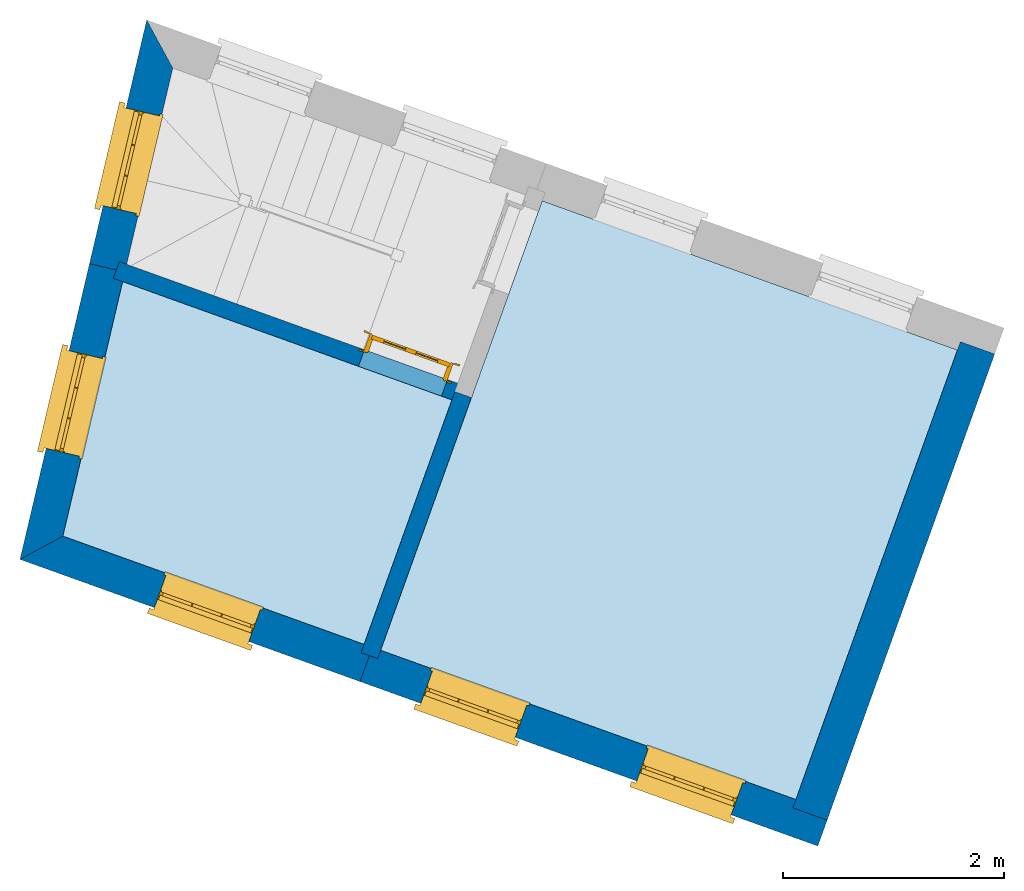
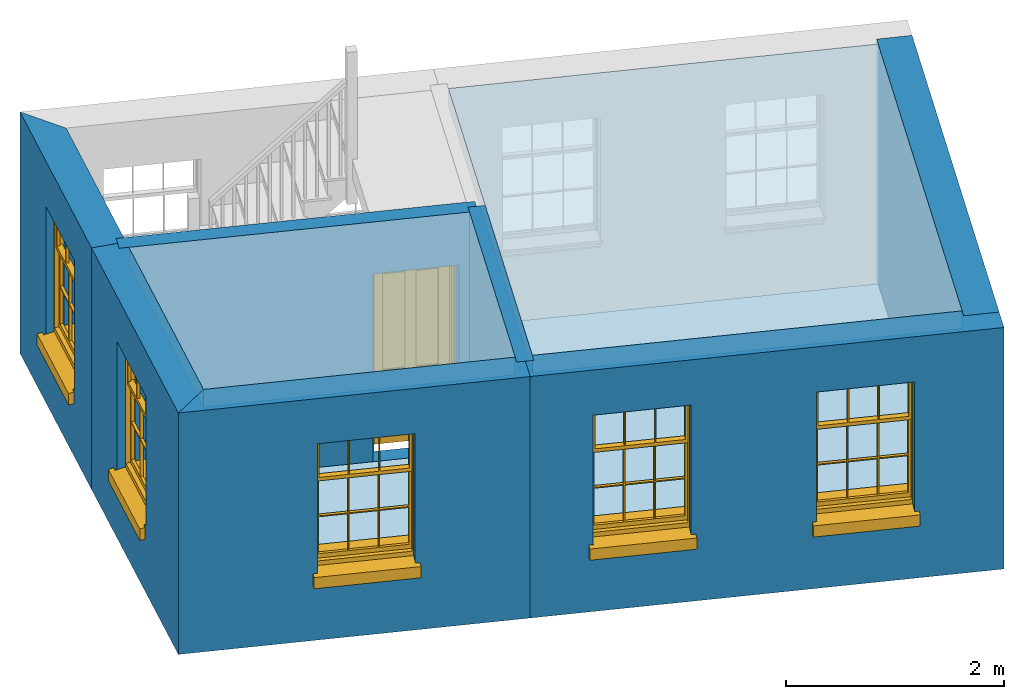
# One storey, part 1 of 3: 7 walls, 5 windows, 4 slabs, 1 door, 6 openings.
"""IFC4 building model written with IfcOpenShell, lengths in metres."""

from ifc_helpers import new_model, si_unit, frame, origin, origin_with_axes, place, context, subcontext, project, spatial, polyline, outline, extrude, faceted_brep, source, transform, mapped, material, layer, layer_set, layer_usage, type_object, type_shapes, element, fill, save


model = new_model("IFC4")

# Units and contexts
model_context = context("Model", 3, world=origin_with_axes())
body_context = subcontext(model_context, "Body", "Model", "MODEL_VIEW")
ifc_project = project(units=[si_unit("PLANEANGLEUNIT", "RADIAN"), si_unit("MASSUNIT", "GRAM", prefix="KILO"), si_unit("FORCEUNIT", "NEWTON", prefix="KILO"), si_unit("LENGTHUNIT", "METRE"), si_unit("AREAUNIT", "SQUARE_METRE"), si_unit("VOLUMEUNIT", "CUBIC_METRE")], contexts=[model_context, model_context])

# Sites, building, storey
site_1_placement = place(None, origin_with_axes())
site_1 = spatial("IfcSite", under=ifc_project, at=site_1_placement, Name="Tamar")
site_2_placement = place(site_1_placement, origin_with_axes())
site_2 = spatial("IfcSite", under=site_1, at=site_2_placement, Name="Site plot-22", CompositionType="ELEMENT")
building_placement = place(None, origin_with_axes())
building = spatial("IfcBuilding", under=site_2, at=building_placement, Name="Building plot-22", CompositionType="ELEMENT")
storey_placement = place(None, frame((0.0, 0.0, 27.8), z_axis=(0.0, 0.0, 1.0), x_axis=(1.0, 0.0, 0.0)))
storey = spatial("IfcBuildingStorey", under=building, at=storey_placement, Name="plot-22 1", CompositionType="ELEMENT", Elevation=27.8)

# Slabs
slab_1_placement = place(storey_placement, frame((250.675062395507, 274.189017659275, 2.5)))
element("IfcSlab", 1, at=slab_1_placement, inside=storey, Name="My Slab", ObjectType="Slab", PredefinedType="FLOOR", context=body_context, shape_type="SweptSolid", body=[
    extrude(outline(polyline([(0.0, 0.0), (-0.541850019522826, -2.30695376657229), (2.1880883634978, -3.28791190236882), (2.9842208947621, -1.07233034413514), (0.0, 0.0)])), origin_with_axes(), (0.0, 0.0, 1.0), 0.2),
])
slab_2_placement = place(storey_placement, frame((250.675062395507, 274.189017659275, 0.0)))
element("IfcSlab", 2, at=slab_2_placement, inside=storey, Name="My Slab", ObjectType="Slab", PredefinedType="FLOOR", context=body_context, shape_type="SweptSolid", body=[
    extrude(outline(polyline([(0.0, 0.0), (-0.541850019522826, -2.30695376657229), (2.1880883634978, -3.28791190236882), (2.9842208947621, -1.07233034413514), (0.0, 0.0)])), origin_with_axes(), (0.0, 0.0, 1.0), 0.02),
])
slab_3_placement = place(storey_placement, frame((253.013724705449, 270.846999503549, 2.5)))
element("IfcSlab", 3, at=slab_3_placement, inside=storey, Name="My Slab", ObjectType="Slab", PredefinedType="FLOOR", context=body_context, shape_type="SweptSolid", body=[
    extrude(outline(polyline([(0.0, 0.0), (3.76400951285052, -1.35253446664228), (5.22814431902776, 2.72205104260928), (1.4641348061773, 4.07458550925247), (0.0, 0.0)])), origin_with_axes(), (0.0, 0.0, 1.0), 0.2),
])
slab_4_placement = place(storey_placement, frame((253.013724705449, 270.846999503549, 0.0)))
element("IfcSlab", 4, at=slab_4_placement, inside=storey, Name="My Slab", ObjectType="Slab", PredefinedType="FLOOR", context=body_context, shape_type="SweptSolid", body=[
    extrude(outline(polyline([(0.0, 0.0), (3.76400951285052, -1.35253446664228), (5.22814431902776, 2.72205104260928), (1.4641348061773, 4.07458550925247), (0.0, 0.0)])), origin_with_axes(), (0.0, 0.0, 1.0), 0.02),
])

# Wall, opening, window
ifc_material_1 = material(Name="Masonry")
ifc_layer_1 = layer(ifc_material_1, 0.33, ventilated=False)
ifc_layer_set_1 = layer_set([ifc_layer_1], Name="exterior_0.08_0.25")
ifc_layer_usage_1 = layer_usage(ifc_layer_set_1, "AXIS2", "POSITIVE", -0.25)
wall_type_1 = type_object("IfcWallType", Name="exterior_0.08_0.25", PredefinedType="SOLIDWALL", material=ifc_layer_set_1)
wall_1_placement = place(storey_placement, frame((251.072337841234, 276.230310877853, 0.0), z_axis=(0.0, 0.0, 1.0), x_axis=(-0.228654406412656, -0.973507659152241, 0.0)))
wall_1 = element("IfcWall", 5, at=wall_1_placement, inside=storey, type_object=wall_type_1, material=ifc_layer_usage_1, Name="exterior", context=body_context, shape_type="SweptSolid", body=[
    extrude(outline(polyline([(0.0897067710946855, 0.0800000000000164), (-0.280333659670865, -0.250000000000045), (1.98834659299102, -0.250000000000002), (1.98834659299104, 0.0799999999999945), (0.0897067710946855, 0.0800000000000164)])), origin_with_axes(), (0.0, 0.0, 1.0), 2.7),
])
opening_1_placement = place(wall_1_placement, frame((0.539173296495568, 0.0, 0.75)))
opening_1 = element("IfcOpeningElement", 6, at=opening_1_placement, cuts=wall_1, Name="My Opening", ObjectType="Opening", context=body_context, shape_type="SweptSolid", body=[
    extrude(outline(polyline([(0.0, -0.269999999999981), (0.909999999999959, -0.270000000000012), (0.909999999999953, 1.09999999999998), (-5.77315972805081e-15, 1.10000000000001), (0.0, -0.269999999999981)])), origin_with_axes(), (0.0, 0.0, 1.0), 1.445),
])
window_type = type_object("IfcWindowType", Name="sash_shorter", PartitioningType="DOUBLE_PANEL_HORIZONTAL", PredefinedType="NOTDEFINED")
shared_shape_1 = source(origin(), body_context, "Body", "Brep", [
    faceted_brep([(0.876875, 0.145, 0.999097), (0.876875, 0.145, 1.411875), (0.9, 0.145, 1.435), (0.033125, 0.145, 1.411875), (0.033125, 0.145, 0.999097), (0.01, 0.145, 1.435), (0.033125, 0.115, 1.411875), (0.01, 0.115, 1.435), (0.033125, 0.115, 0.999097), (0.876875, 0.115, 1.411875), (0.876875, 0.115, 0.999097), (0.9, 0.115, 1.435), (0.033125, 0.145, 0.960972), (0.01, 0.145, 0.960972), (0.033125, 0.145, 0.548195), (0.876875, 0.145, 0.960972), (0.876875, 0.145, 0.548195), (0.9, 0.145, 0.960972), (0.876875, 0.145, 0.538195), (0.876875, 0.145, 0.125417), (0.9, 0.145, 0.077167), (0.033125, 0.145, 0.125417), (0.033125, 0.145, 0.538195), (0.01, 0.145, 0.077167), (0.9, 0.115, 0.960972), (0.01, 0.115, 0.960972), (-0.0425, 0.0, 0.01), (-0.0425, -0.05, 0.001667), (0.0, 0.0, 0.01), (0.9525, 0.0, 0.01), (0.91, 0.0, 0.01), (0.9525, -0.05, 0.001667), (-0.02, 0.33, 0.077167), (0.0, 0.33, 0.077167), (-0.02, 0.36, 0.077167), (0.0, 0.19, 0.077167), (0.01, 0.19, 0.077167), (0.91, 0.19, 0.077167), (0.91, 0.33, 0.077167), (0.9, 0.19, 0.077167), (0.93, 0.33, 0.077167), (0.93, 0.36, 0.077167), (0.01, 0.145, 0.999097), (0.01, 0.175, 0.999097), (0.9, 0.145, 0.999097), (0.9, 0.175, 0.999097), (0.876875, 0.175, 0.125417), (0.876875, 0.175, 0.538195), (0.9, 0.175, 0.077167), (0.876875, 0.175, 0.548195), (0.876875, 0.175, 0.960972), (0.033125, 0.175, 0.125417), (0.01, 0.175, 0.077167), (0.033125, 0.175, 0.538195), (0.033125, 0.175, 0.960972), (0.033125, 0.175, 0.548195), (-0.02, 0.33, 0.052167), (-0.02, 0.36, 0.052167), (0.93, 0.36, 0.052167), (0.93, 0.33, 0.052167), (0.91, 0.33, 0.052167), (0.0, 0.33, 0.052167), (0.91, 0.1, 0.026667), (0.0, 0.1, 0.026667), (-0.0425, -0.05, -0.123333), (0.9525, -0.05, -0.123333), (-0.0425, 0.0, -0.123333), (0.9525, 0.0, -0.123333), (0.01, 0.19, 1.435), (0.9, 0.19, 1.435), (0.0, 0.19, 1.445), (0.91, 0.19, 1.445), (0.01, 0.1, 0.077167), (0.9, 0.1, 0.077167), (0.592292, 0.145, 0.125417), (0.592292, 0.175, 0.125417), (0.317708, 0.175, 0.125417), (0.317708, 0.145, 0.125417), (0.592292, 0.145, 0.548195), (0.317708, 0.145, 0.548195), (0.317708, 0.145, 0.538195), (0.592292, 0.145, 0.538195), (0.592292, 0.175, 0.548195), (0.317708, 0.175, 0.548195), (0.602292, 0.175, 0.548195), (0.602292, 0.145, 0.548195), (0.317708, 0.175, 0.538195), (0.307708, 0.175, 0.125417), (0.307708, 0.175, 0.538195), (0.602292, 0.175, 0.538195), (0.602292, 0.175, 0.125417), (0.592292, 0.175, 0.538195), (0.307708, 0.175, 0.548195), (0.317708, 0.175, 0.960972), (0.307708, 0.175, 0.960972), (0.602292, 0.175, 0.960972), (0.592292, 0.175, 0.960972), (0.307708, 0.145, 0.538195), (0.307708, 0.145, 0.125417), (0.307708, 0.145, 0.548195), (0.307708, 0.145, 0.960972), (0.592292, 0.145, 0.960972), (0.317708, 0.145, 0.960972), (0.602292, 0.145, 0.960972), (0.602292, 0.145, 0.538195), (0.602292, 0.145, 0.125417), (0.317708, 0.115, 1.411875), (0.307708, 0.115, 1.411875), (0.307708, 0.115, 0.999097), (0.317708, 0.115, 0.999097), (0.602292, 0.115, 1.411875), (0.592292, 0.115, 1.411875), (0.592292, 0.115, 0.999097), (0.602292, 0.115, 0.999097), (0.317708, 0.145, 0.999097), (0.307708, 0.145, 0.999097), (0.307708, 0.145, 1.411875), (0.317708, 0.145, 1.411875), (0.602292, 0.145, 0.999097), (0.592292, 0.145, 0.999097), (0.592292, 0.145, 1.411875), (0.602292, 0.145, 1.411875), (0.91, 0.1, 1.445), (0.9, 0.1, 1.435), (0.01, 0.1, 1.435), (0.0, 0.1, 1.445), (0.91, 0.0, 0.0), (0.0, 0.0, 0.0), (0.91, 0.33, 0.0), (0.0, 0.33, 0.0)], [[[0, 1, 2]], [[3, 4, 5]], [[6, 7, 8]], [[9, 10, 11]], [[12, 13, 14]], [[15, 16, 17]], [[18, 19, 20]], [[21, 22, 23]], [[24, 15, 17]], [[13, 12, 25]], [[26, 27, 28]], [[29, 30, 31]], [[32, 33, 34]], [[35, 36, 33]], [[37, 38, 39]], [[40, 41, 38]], [[42, 4, 43]], [[44, 45, 0]], [[46, 47, 48]], [[49, 50, 45]], [[51, 52, 53]], [[54, 55, 43]], [[38, 33, 36, 39]], [[41, 34, 33, 38]], [[56, 32, 34, 57]], [[57, 34, 41, 58]], [[58, 41, 40, 59]], [[57, 58, 60, 61]], [[52, 48, 39, 36]], [[62, 63, 28, 30]], [[27, 31, 30, 28]], [[27, 64, 65, 31]], [[66, 67, 65, 64]], [[2, 5, 68, 69]], [[68, 70, 71, 69]], [[20, 23, 72, 73]], [[73, 72, 63, 62]], [[74, 75, 76, 77]], [[78, 79, 80, 81]], [[78, 82, 83, 79]], [[16, 49, 84, 85]], [[86, 76, 87, 88]], [[89, 90, 75, 91]], [[92, 88, 53, 55]], [[82, 91, 86, 83]], [[93, 83, 92, 94]], [[95, 84, 82, 96]], [[89, 84, 49, 47]], [[97, 88, 87, 98]], [[22, 53, 88, 97]], [[81, 91, 75, 74]], [[80, 86, 91, 81]], [[77, 76, 86, 80]], [[99, 92, 55, 14]], [[100, 94, 92, 99]], [[101, 96, 82, 78]], [[79, 83, 93, 102]], [[85, 84, 95, 103]], [[104, 89, 47, 18]], [[105, 90, 89, 104]], [[104, 18, 16, 85]], [[80, 97, 98, 77]], [[104, 81, 74, 105]], [[103, 101, 78, 85]], [[99, 14, 22, 97]], [[102, 100, 99, 79]], [[106, 107, 108, 109]], [[110, 111, 112, 113]], [[114, 115, 116, 117]], [[118, 119, 120, 121]], [[107, 116, 115, 108]], [[111, 120, 119, 112]], [[109, 114, 117, 106]], [[113, 118, 121, 110]], [[85, 78, 81, 104]], [[84, 89, 91, 82]], [[83, 86, 88, 92]], [[79, 99, 97, 80]], [[109, 112, 119, 114]], [[102, 93, 96, 101]], [[106, 117, 120, 111]], [[98, 87, 51, 21]], [[6, 3, 116, 107]], [[110, 121, 1, 9]], [[19, 46, 90, 105]], [[26, 66, 64, 27]], [[29, 31, 65, 67]], [[25, 24, 112, 109]], [[11, 7, 106, 111]], [[75, 48, 52, 76]], [[43, 45, 96, 93]], [[45, 43, 114, 119]], [[5, 2, 120, 117]], [[24, 25, 102, 101]], [[42, 5, 4]], [[2, 44, 0]], [[49, 45, 48, 47]], [[52, 43, 55, 53]], [[14, 13, 23, 22]], [[20, 17, 16, 18]], [[24, 11, 10]], [[25, 8, 7]], [[8, 4, 3, 6]], [[9, 1, 0, 10]], [[15, 50, 49, 16]], [[18, 47, 46, 19]], [[21, 51, 53, 22]], [[14, 55, 54, 12]], [[44, 2, 69, 45]], [[68, 5, 42, 43]], [[36, 35, 70, 68]], [[39, 69, 71, 37]], [[62, 122, 123, 73]], [[63, 72, 124, 125]], [[8, 108, 115, 4]], [[113, 10, 0, 118]], [[94, 100, 12, 54]], [[17, 20, 73, 24]], [[72, 23, 13, 25]], [[52, 36, 68, 43]], [[69, 39, 48, 45]], [[11, 24, 73, 123]], [[7, 124, 72, 25]], [[23, 77, 98]], [[98, 21, 23]], [[105, 74, 20]], [[20, 19, 105]], [[20, 74, 77, 23]], [[113, 112, 24]], [[24, 10, 113]], [[25, 109, 108]], [[108, 8, 25]], [[110, 9, 11]], [[11, 111, 110]], [[7, 6, 107]], [[107, 106, 7]], [[5, 117, 116]], [[116, 3, 5]], [[121, 120, 2]], [[2, 1, 121]], [[11, 123, 124, 7]], [[122, 125, 124, 123]], [[43, 93, 94]], [[94, 54, 43]], [[96, 45, 95]], [[50, 95, 45]], [[15, 103, 95, 50]], [[48, 75, 90]], [[90, 46, 48]], [[87, 76, 52]], [[52, 51, 87]], [[103, 15, 24]], [[24, 101, 103]], [[100, 102, 25]], [[25, 12, 100]], [[115, 114, 43]], [[43, 4, 115]], [[118, 0, 45]], [[45, 119, 118]], [[71, 70, 125, 122]], [[70, 35, 63, 125]], [[122, 62, 37, 71]], [[126, 67, 66, 127]], [[60, 58, 59]], [[38, 60, 59, 40]], [[61, 56, 57]], [[32, 56, 61, 33]], [[61, 60, 128, 129]], [[62, 60, 38, 37]], [[126, 128, 60, 62]], [[33, 61, 63, 35]], [[61, 129, 127, 63]], [[128, 126, 127, 129]], [[28, 127, 66, 26]], [[63, 127, 28]], [[29, 67, 126, 30]], [[30, 126, 62]]]),
])
type_shapes(window_type, [shared_shape_1])
window_1_placement = place(storey_placement, frame((250.686206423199, 275.767158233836, 0.75), z_axis=(0.0, 0.0, 1.0), x_axis=(-0.208075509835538, -0.885891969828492, 0.0)))
window_1 = element("IfcWindow", 7, at=window_1_placement, inside=storey, type_object=window_type, Name="circulation outside window", OverallHeight=1.445, OverallWidth=0.91, context=body_context, shape_type="MappedRepresentation", body=[
    mapped(shared_shape_1, transform((0.0, 0.0, 0.0), scale=1.0)),
])
fill(opening_1, window_1)

wall_2_placement = place(storey_placement, frame((250.617693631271, 274.294640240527, 0.0), z_axis=(0.0, 0.0, 1.0), x_axis=(-0.228654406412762, -0.973507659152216, 0.0)))
wall_2 = element("IfcWall", 8, at=wall_2_placement, inside=storey, type_object=wall_type_1, material=ifc_layer_usage_1, Name="exterior", context=body_context, shape_type="SweptSolid", body=[
    extrude(outline(polyline([(-4.84638636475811e-15, 0.0799999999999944), (1.23387836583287e-14, -0.250000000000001), (2.75373249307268, -0.249999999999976), (2.4594403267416, 0.0799999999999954), (-4.84638636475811e-15, 0.0799999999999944)])), origin_with_axes(), (0.0, 0.0, 1.0), 2.7),
])
opening_2_placement = place(wall_2_placement, frame((0.810391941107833, 0.0, 0.75)))
opening_2 = element("IfcOpeningElement", 9, at=opening_2_placement, cuts=wall_2, Name="My Opening", ObjectType="Opening", context=body_context, shape_type="SweptSolid", body=[
    extrude(outline(polyline([(0.0, -0.270000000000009), (0.910000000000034, -0.270000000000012), (0.910000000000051, 1.09999999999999), (1.70974345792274e-14, 1.1), (0.0, -0.270000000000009)])), origin_with_axes(), (0.0, 0.0, 1.0), 1.445),
])
window_2_placement = place(storey_placement, frame((250.169546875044, 273.567454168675, 0.75), z_axis=(0.0, 0.0, 1.0), x_axis=(-0.208075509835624, -0.885891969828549, 0.0)))
window_2 = element("IfcWindow", 10, at=window_2_placement, inside=storey, type_object=window_type, Name="toilet outside window", OverallHeight=1.445, OverallWidth=0.91, context=body_context, shape_type="MappedRepresentation", body=[
    mapped(shared_shape_1, transform((0.0, 0.0, 0.0), scale=1.0)),
])
fill(opening_2, window_2)

wall_3_placement = place(storey_placement, frame((250.039018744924, 271.830902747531, 0.0), z_axis=(0.0, 0.0, 1.0), x_axis=(0.941087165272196, -0.338164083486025, 0.0)))
wall_3 = element("IfcWall", 11, at=wall_3_placement, inside=storey, type_object=wall_type_1, material=ifc_layer_usage_1, Name="exterior", context=body_context, shape_type="SweptSolid", body=[
    extrude(outline(polyline([(0.0713435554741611, 0.0799999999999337), (-0.222948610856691, -0.250000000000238), (3.05217833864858, -0.249999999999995), (3.0521783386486, 0.0799999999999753), (0.0713435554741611, 0.0799999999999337)])), origin_with_axes(), (0.0, 0.0, 1.0), 2.7),
])
opening_3_placement = place(wall_3_placement, frame((1.07108916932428, 0.0, 0.75)))
opening_3 = element("IfcOpeningElement", 12, at=opening_3_placement, cuts=wall_3, Name="My Opening", ObjectType="Opening", context=body_context, shape_type="SweptSolid", body=[
    extrude(outline(polyline([(0.0, -0.269999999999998), (0.910000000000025, -0.270000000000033), (0.910000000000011, 1.1), (-1.46549439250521e-14, 1.10000000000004), (0.0, -0.269999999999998)])), origin_with_axes(), (0.0, 0.0, 1.0), 1.445),
])
window_3_placement = place(storey_placement, frame((250.955702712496, 271.214605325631, 0.75), z_axis=(0.0, 0.0, 1.0), x_axis=(0.85638932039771, -0.307729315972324, 0.0)))
window_3 = element("IfcWindow", 13, at=window_3_placement, inside=storey, type_object=window_type, Name="toilet outside window", OverallHeight=1.445, OverallWidth=0.91, context=body_context, shape_type="MappedRepresentation", body=[
    mapped(shared_shape_1, transform((0.0, 0.0, 0.0), scale=1.0)),
])
fill(opening_3, window_3)

# Wall, openings, windows
wall_4_placement = place(storey_placement, frame((252.911384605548, 270.798765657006, 0.0), z_axis=(0.0, 0.0, 1.0), x_axis=(0.941087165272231, -0.338164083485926, 0.0)))
wall_4 = element("IfcWall", 14, at=wall_4_placement, inside=storey, type_object=wall_type_1, material=ifc_layer_usage_1, Name="exterior", context=body_context, shape_type="SweptSolid", body=[
    extrude(outline(polyline([(1.44644432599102e-14, 0.0799999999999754), (-3.46848826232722e-14, -0.249999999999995), (4.40963962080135, -0.249999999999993), (4.40963962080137, 0.0799999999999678), (1.44644432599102e-14, 0.0799999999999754)])), origin_with_axes(), (0.0, 0.0, 1.0), 2.7),
])
opening_4_placement = place(wall_4_placement, frame((0.584909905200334, 0.0, 0.75)))
opening_4 = element("IfcOpeningElement", 15, at=opening_4_placement, cuts=wall_4, Name="My Opening", ObjectType="Opening", context=body_context, shape_type="SweptSolid", body=[
    extrude(outline(polyline([(0.0, -0.269999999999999), (0.910000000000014, -0.270000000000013), (0.910000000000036, 1.09999999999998), (2.18713935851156e-14, 1.1), (0.0, -0.269999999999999)])), origin_with_axes(), (0.0, 0.0, 1.0), 1.445),
])
opening_5_placement = place(wall_4_placement, frame((2.66472971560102, 0.0, 0.75)))
opening_5 = element("IfcOpeningElement", 16, at=opening_5_placement, cuts=wall_4, Name="My Opening", ObjectType="Opening", context=body_context, shape_type="SweptSolid", body=[
    extrude(outline(polyline([(0.0, -0.269999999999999), (0.910000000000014, -0.270000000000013), (0.909999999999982, 1.09999999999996), (2.22044604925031e-14, 1.1), (0.0, -0.269999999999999)])), origin_with_axes(), (0.0, 0.0, 1.0), 1.445),
])
window_4_placement = place(storey_placement, frame((253.370531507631, 270.346876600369, 0.75), z_axis=(0.0, 0.0, 1.0), x_axis=(0.856389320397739, -0.30772931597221, 0.0)))
window_4 = element("IfcWindow", 17, at=window_4_placement, inside=storey, type_object=window_type, Name="bedroom outside window", OverallHeight=1.445, OverallWidth=0.91, context=body_context, shape_type="MappedRepresentation", body=[
    mapped(shared_shape_1, transform((0.0, 0.0, 0.0), scale=1.0)),
])
fill(opening_4, window_4)
window_5_placement = place(storey_placement, frame((255.327823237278, 269.643556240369, 0.75), z_axis=(0.0, 0.0, 1.0), x_axis=(0.85638932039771, -0.30772931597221, 0.0)))
window_5 = element("IfcWindow", 18, at=window_5_placement, inside=storey, type_object=window_type, Name="bedroom outside window", OverallHeight=1.445, OverallWidth=0.91, context=body_context, shape_type="MappedRepresentation", body=[
    mapped(shared_shape_1, transform((0.0, 0.0, 0.0), scale=1.0)),
])
fill(opening_5, window_5)

# Wall
ifc_material_2 = material(Name="Masonry")
ifc_layer_2 = layer(ifc_material_2, 0.33, ventilated=False)
ifc_layer_set_2 = layer_set([ifc_layer_2], Name="party_0.08_0.25")
ifc_layer_usage_2 = layer_usage(ifc_layer_set_2, "AXIS2", "POSITIVE", -0.25)
wall_type_2 = type_object("IfcWallType", Name="party_0.08_0.25", PredefinedType="SOLIDWALL", material=ifc_layer_set_2)
wall_5_placement = place(storey_placement, frame((256.825968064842, 269.392124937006, 0.0), z_axis=(0.0, 0.0, 1.0), x_axis=(0.338164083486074, 0.941087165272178, 0.0)))
element("IfcWall", 19, at=wall_5_placement, inside=storey, type_object=wall_type_2, material=ifc_layer_usage_2, Name="party", context=body_context, shape_type="SweptSolid", body=[
    extrude(outline(polyline([(1.88783683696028e-15, 0.0799999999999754), (-2.19671078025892e-14, -0.250000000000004), (4.48965793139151, -0.250000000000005), (4.48965793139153, 0.0799999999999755), (1.88783683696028e-15, 0.0799999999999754)])), origin_with_axes(), (0.0, 0.0, 1.0), 2.7),
])

# Wall, opening, door
ifc_material_3 = material(Name="Masonry")
ifc_layer_3 = layer(ifc_material_3, 0.16, ventilated=False)
ifc_layer_set_3 = layer_set([ifc_layer_3], Name="interior_0.08_0.08")
ifc_layer_usage_3 = layer_usage(ifc_layer_set_3, "AXIS2", "POSITIVE", -0.08)
wall_type_3 = type_object("IfcWallType", Name="interior_0.08_0.08", PredefinedType="SOLIDWALL", material=ifc_layer_set_3)
wall_6_placement = place(storey_placement, frame((250.617693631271, 274.294640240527, 0.0), z_axis=(0.0, 0.0, 1.0), x_axis=(0.94108716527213, -0.338164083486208, 0.0)))
wall_6 = element("IfcWall", 20, at=wall_6_placement, inside=storey, type_object=wall_type_3, material=ifc_layer_usage_3, Name="interior", context=body_context, shape_type="SweptSolid", body=[
    extrude(outline(polyline([(1.72177963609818e-14, 0.0799999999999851), (-1.7209829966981e-14, -0.0799999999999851), (3.34074236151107, -0.0799999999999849), (3.34074236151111, 0.079999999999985), (1.72177963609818e-14, 0.0799999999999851)])), origin_with_axes(), (0.0, 0.0, 1.0), 2.7),
])
opening_6_placement = place(wall_6_placement, frame((2.36074236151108, 0.0, 0.0199999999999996)))
opening_6 = element("IfcOpeningElement", 21, at=opening_6_placement, cuts=wall_6, Name="My Opening", ObjectType="Opening", context=body_context, shape_type="SweptSolid", body=[
    extrude(outline(polyline([(0.0, -0.100000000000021), (0.799999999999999, -0.10000000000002), (0.800000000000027, 1.09999999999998), (2.8421709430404e-14, 1.09999999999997), (0.0, -0.100000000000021)])), origin_with_axes(), (0.0, 0.0, 1.0), 2.1),
])
door_type = type_object("IfcDoorType", Name="door_inside", OperationType="SINGLE_SWING_LEFT", PredefinedType="NOTDEFINED")
shared_shape_2 = source(origin(), body_context, "Body", "Brep", [
    faceted_brep([(0.773, 0.33, 1.895), (0.66, 0.33, 1.895), (0.66, 0.33, 2.073), (0.773, 0.33, 2.073), (0.773, 0.33, 0.82), (0.66, 0.33, 0.82), (0.45, 0.33, 1.895), (0.45, 0.33, 2.073), (0.773, 0.33, 0.62), (0.66, 0.33, 0.62), (0.66, 0.315, 0.82), (0.66, 0.315, 1.895), (0.45, 0.315, 1.895), (0.35, 0.33, 1.895), (0.35, 0.33, 2.073), (0.773, 0.33, 0.225), (0.66, 0.33, 0.225), (0.45, 0.33, 0.62), (0.45, 0.33, 0.82), (0.45, 0.315, 0.82), (0.35, 0.33, 0.82), (0.14, 0.33, 2.073), (0.14, 0.33, 1.895), (0.773, 0.33, 0.0), (0.66, 0.33, 0.0), (0.66, 0.315, 0.225), (0.66, 0.315, 0.62), (0.45, 0.315, 0.62), (0.35, 0.33, 0.62), (0.35, 0.315, 0.82), (0.35, 0.315, 1.895), (0.14, 0.315, 1.895), (0.027, 0.33, 2.073), (0.027, 0.33, 1.895), (0.773, 0.292, 0.0), (0.66, 0.292, 0.0), (0.45, 0.33, 0.0), (0.45, 0.33, 0.225), (0.45, 0.315, 0.225), (0.35, 0.33, 0.225), (0.14, 0.33, 0.82), (0.14, 0.33, 0.62), (0.14, 0.315, 0.82), (0.027, 0.33, 0.82), (0.773, 0.292, 0.225), (0.66, 0.292, 0.225), (0.45, 0.292, 0.0), (0.35, 0.33, 0.0), (0.35, 0.315, 0.225), (0.35, 0.315, 0.62), (0.14, 0.315, 0.62), (0.027, 0.33, 0.62), (0.773, 0.292, 0.62), (0.66, 0.292, 0.62), (0.45, 0.292, 0.225), (0.35, 0.292, 0.0), (0.14, 0.33, 0.225), (0.14, 0.33, 0.0), (0.14, 0.315, 0.225), (0.027, 0.33, 0.225), (0.773, 0.292, 0.82), (0.66, 0.292, 0.82), (0.66, 0.307, 0.62), (0.66, 0.307, 0.225), (0.45, 0.307, 0.225), (0.35, 0.292, 0.225), (0.14, 0.292, 0.0), (0.027, 0.33, 0.0), (0.773, 0.292, 1.895), (0.66, 0.292, 1.895), (0.45, 0.292, 0.62), (0.45, 0.292, 0.82), (0.45, 0.307, 0.62), (0.35, 0.292, 0.62), (0.14, 0.292, 0.225), (0.027, 0.292, 0.0), (0.773, 0.292, 2.073), (0.66, 0.292, 2.073), (0.66, 0.307, 1.895), (0.66, 0.307, 0.82), (0.45, 0.307, 0.82), (0.35, 0.292, 0.82), (0.35, 0.307, 0.62), (0.35, 0.307, 0.225), (0.14, 0.307, 0.225), (0.027, 0.292, 0.225), (0.45, 0.292, 1.895), (0.45, 0.292, 2.073), (0.45, 0.307, 1.895), (0.35, 0.292, 1.895), (0.14, 0.292, 0.82), (0.14, 0.292, 0.62), (0.14, 0.307, 0.62), (0.027, 0.292, 0.62), (0.35, 0.292, 2.073), (0.35, 0.307, 1.895), (0.35, 0.307, 0.82), (0.14, 0.307, 0.82), (0.027, 0.292, 0.82), (0.14, 0.292, 2.073), (0.14, 0.292, 1.895), (0.14, 0.307, 1.895), (0.027, 0.292, 1.895), (0.027, 0.292, 2.073), (0.02, 0.335, 0.0), (0.005, 0.34, 0.0), (0.005, 0.34, 2.095), (0.02, 0.335, 2.08), (0.02, 0.33, 0.0), (0.0, 0.335, 0.0), (0.0, 0.335, 2.1), (0.795, 0.34, 2.095), (0.78, 0.335, 2.08), (0.02, 0.33, 2.08), (0.0, 0.33, 0.0), (-0.032, 0.345, 0.0), (-0.032, 0.345, 2.132), (0.8, 0.335, 2.1), (0.795, 0.34, 0.0), (0.78, 0.335, 0.0), (0.78, 0.33, 2.08), (0.04, 0.29, 0.0), (0.025, 0.29, 0.0), (0.025, 0.29, 2.075), (0.04, 0.29, 2.06), (-0.04, 0.34, 0.0), (-0.04, 0.34, 2.14), (0.832, 0.345, 2.132), (0.8, 0.335, 0.0), (0.78, 0.33, 0.0), (0.8, 0.33, 0.0), (0.86, 0.33, 0.0), (0.86, 0.33, 2.16), (0.8, 0.33, 2.1), (-0.06, 0.33, 2.16), (0.0, 0.33, 2.1), (-0.06, 0.33, 0.0), (-0.04, 0.345, 0.0), (-0.04, 0.345, 2.14), (0.84, 0.34, 2.14), (0.832, 0.345, 0.0), (0.84, 0.34, 0.0), (0.86, 0.345, 0.0), (0.86, 0.345, 2.16), (-0.06, 0.345, 2.16), (-0.06, 0.345, 0.0), (0.84, 0.345, 0.0), (0.84, 0.345, 2.14), (-0.025, 0.155, 0.0), (-0.025, 0.16, 0.0), (-0.025, 0.16, 2.125), (-0.025, 0.155, 2.125), (-0.017, 0.155, 0.0), (-0.017, 0.155, 2.117), (0.825, 0.16, 2.125), (0.825, 0.155, 2.125), (0.825, 0.155, 0.0), (0.845, 0.155, 0.0), (-0.045, 0.155, 2.145), (-0.045, 0.155, 0.0), (0.845, 0.155, 2.145), (0.015, 0.165, 0.0), (0.015, 0.165, 2.085), (0.817, 0.155, 2.117), (0.825, 0.16, 0.0), (0.845, 0.17, 0.0), (0.845, 0.17, 2.145), (-0.045, 0.17, 2.145), (-0.045, 0.17, 0.0), (0.02, 0.16, 0.0), (0.02, 0.16, 2.08), (0.785, 0.165, 2.085), (0.817, 0.155, 0.0), (0.8, 0.17, 0.0), (0.8, 0.17, 2.1), (0.0, 0.17, 2.1), (0.0, 0.17, 0.0), (0.035, 0.165, 0.0), (0.035, 0.165, 2.065), (0.78, 0.16, 2.08), (0.785, 0.165, 0.0), (0.775, 0.29, 2.075), (0.76, 0.29, 2.06), (0.035, 0.17, 2.065), (0.035, 0.17, 0.0), (0.765, 0.165, 2.065), (0.78, 0.16, 0.0), (0.765, 0.17, 0.0), (0.765, 0.17, 2.065), (0.765, 0.165, 0.0), (0.04, 0.17, 2.06), (0.04, 0.17, 0.0), (0.76, 0.17, 2.06), (0.76, 0.17, 0.0), (0.76, 0.29, 0.0), (0.775, 0.29, 0.0), (0.025, 0.33, 0.0), (0.025, 0.33, 2.075), (0.775, 0.33, 0.0), (0.775, 0.33, 2.075)], [[[0, 1, 2, 3]], [[1, 0, 4, 5]], [[1, 6, 7, 2]], [[8, 9, 5, 4]], [[1, 5, 10, 11]], [[6, 1, 11, 12]], [[6, 13, 14, 7]], [[15, 16, 9, 8]], [[9, 17, 18, 5]], [[5, 18, 19, 10]], [[10, 19, 12, 11]], [[18, 6, 12, 19]], [[18, 20, 13, 6]], [[21, 14, 13, 22]], [[23, 24, 16, 15]], [[9, 16, 25, 26]], [[17, 9, 26, 27]], [[17, 28, 20, 18]], [[13, 20, 29, 30]], [[22, 13, 30, 31]], [[32, 21, 22, 33]], [[34, 35, 24, 23]], [[24, 36, 37, 16]], [[16, 37, 38, 25]], [[25, 38, 27, 26]], [[37, 17, 27, 38]], [[37, 39, 28, 17]], [[40, 20, 28, 41]], [[20, 40, 42, 29]], [[31, 30, 29, 42]], [[40, 22, 31, 42]], [[33, 22, 40, 43]], [[35, 34, 44, 45]], [[35, 46, 36, 24]], [[36, 47, 39, 37]], [[28, 39, 48, 49]], [[41, 28, 49, 50]], [[43, 40, 41, 51]], [[45, 44, 52, 53]], [[46, 35, 45, 54]], [[46, 55, 47, 36]], [[56, 39, 47, 57]], [[39, 56, 58, 48]], [[50, 49, 48, 58]], [[56, 41, 50, 58]], [[51, 41, 56, 59]], [[53, 52, 60, 61]], [[45, 53, 62, 63]], [[54, 45, 63, 64]], [[55, 46, 54, 65]], [[55, 66, 57, 47]], [[59, 56, 57, 67]], [[61, 60, 68, 69]], [[70, 53, 61, 71]], [[53, 70, 72, 62]], [[72, 64, 63, 62]], [[70, 54, 64, 72]], [[65, 54, 70, 73]], [[65, 74, 66, 55]], [[67, 57, 66, 75]], [[69, 68, 76, 77]], [[61, 69, 78, 79]], [[71, 61, 79, 80]], [[73, 70, 71, 81]], [[65, 73, 82, 83]], [[74, 65, 83, 84]], [[74, 85, 75, 66]], [[86, 69, 77, 87]], [[69, 86, 88, 78]], [[88, 80, 79, 78]], [[86, 71, 80, 88]], [[81, 71, 86, 89]], [[73, 81, 90, 91]], [[73, 91, 92, 82]], [[83, 82, 92, 84]], [[91, 74, 84, 92]], [[91, 93, 85, 74]], [[89, 86, 87, 94]], [[81, 89, 95, 96]], [[90, 81, 96, 97]], [[90, 98, 93, 91]], [[94, 99, 100, 89]], [[89, 100, 101, 95]], [[101, 97, 96, 95]], [[100, 90, 97, 101]], [[100, 102, 98, 90]], [[99, 103, 102, 100]], [[32, 103, 99, 21]], [[102, 103, 32, 33]], [[98, 102, 33, 43]], [[21, 99, 94, 14]], [[94, 87, 7, 14]], [[7, 87, 77, 2]], [[76, 3, 2, 77]], [[43, 51, 93, 98]], [[51, 59, 85, 93]], [[67, 75, 85, 59]], [[34, 23, 15, 44]], [[44, 15, 8, 52]], [[52, 8, 4, 60]], [[0, 68, 60, 4]], [[0, 3, 76, 68]], [[104, 105, 106, 107]], [[104, 108, 109, 105]], [[105, 109, 110, 106]], [[107, 106, 111, 112]], [[107, 113, 108, 104]], [[114, 109, 108]], [[109, 115, 116, 110]], [[106, 110, 117, 111]], [[112, 111, 118, 119]], [[113, 107, 112, 120]], [[121, 122, 123, 124]], [[115, 109, 114, 125]], [[115, 125, 126, 116]], [[110, 116, 127, 117]], [[111, 117, 128, 118]], [[118, 128, 129, 119]], [[120, 112, 119, 129]], [[130, 129, 128]], [[130, 131, 132, 133]], [[133, 132, 134, 135]], [[135, 134, 136, 114]], [[136, 125, 114]], [[125, 137, 138, 126]], [[116, 126, 139, 127]], [[117, 127, 140, 128]], [[141, 130, 128, 140]], [[131, 130, 141]], [[131, 142, 143, 132]], [[132, 143, 144, 134]], [[134, 144, 145, 136]], [[137, 125, 136, 145]], [[143, 142, 146]], [[143, 146, 147]], [[137, 145, 144]], [[143, 147, 138]], [[138, 137, 144]], [[143, 138, 144]], [[126, 138, 147, 139]], [[127, 139, 141, 140]], [[142, 131, 141, 146]], [[139, 147, 146, 141]], [[148, 149, 150, 151]], [[149, 152, 153, 150]], [[151, 150, 154, 155]], [[155, 156, 157]], [[158, 159, 148]], [[158, 148, 151]], [[155, 157, 160]], [[158, 151, 155]], [[155, 160, 158]], [[152, 161, 162, 153]], [[150, 153, 163, 154]], [[155, 154, 164, 156]], [[156, 164, 165, 157]], [[157, 165, 166, 160]], [[160, 166, 167, 158]], [[158, 167, 168, 159]], [[161, 169, 170, 162]], [[153, 162, 171, 163]], [[154, 163, 172, 164]], [[165, 164, 173]], [[165, 173, 174, 166]], [[166, 174, 175, 167]], [[167, 175, 176, 168]], [[169, 177, 178, 170]], [[162, 170, 179, 171]], [[163, 171, 180, 172]], [[172, 180, 173, 164]], [[124, 123, 181, 182]], [[183, 178, 177, 184]], [[170, 178, 185, 179]], [[171, 179, 186, 180]], [[187, 173, 180]], [[185, 188, 187, 189]], [[188, 185, 178, 183]], [[179, 185, 189, 186]], [[189, 187, 180, 186]], [[190, 183, 184, 191]], [[192, 188, 183, 190]], [[191, 184, 122, 121]], [[124, 190, 191, 121]], [[193, 187, 188, 192]], [[182, 192, 190, 124]], [[184, 176, 122]], [[194, 195, 187, 193]], [[192, 182, 194, 193]], [[161, 176, 184]], [[114, 108, 122, 176]], [[173, 187, 195]], [[152, 149, 176, 161]], [[169, 161, 184, 177]], [[196, 122, 108]], [[176, 175, 135, 114]], [[173, 195, 129, 130]], [[176, 149, 168]], [[123, 122, 196, 197]], [[196, 108, 113, 197]], [[175, 174, 133, 135]], [[198, 129, 195]], [[133, 174, 173, 130]], [[159, 168, 149, 148]], [[181, 123, 197, 199]], [[197, 113, 120, 199]], [[199, 120, 129, 198]], [[195, 181, 199, 198]], [[195, 194, 182, 181]]]),
])
type_shapes(door_type, [shared_shape_2])
door_placement = place(storey_placement, frame((252.805541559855, 273.402213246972, 0.0199999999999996), z_axis=(0.0, 0.0, 1.0), x_axis=(0.752869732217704, -0.270531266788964, 0.0)))
door = element("IfcDoor", 22, at=door_placement, inside=storey, type_object=door_type, Name="toilet inside door", OverallHeight=2.1, OverallWidth=0.8, context=body_context, shape_type="MappedRepresentation", body=[
    mapped(shared_shape_2, transform((0.0, 0.0, 0.0), scale=1.0)),
])
fill(opening_6, door)

# Wall
wall_7_placement = place(storey_placement, frame((253.76162339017, 273.164921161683, 0.0), z_axis=(0.0, 0.0, 1.0), x_axis=(-0.338164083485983, -0.941087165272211, 0.0)))
element("IfcWall", 23, at=wall_7_placement, inside=storey, type_object=wall_type_3, material=ifc_layer_usage_3, Name="interior", context=body_context, shape_type="SweptSolid", body=[
    extrude(outline(polyline([(-1.46957615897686e-17, 0.0800000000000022), (4.89858719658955e-18, -0.0800000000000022), (2.51427879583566, -0.0800000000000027), (2.51427879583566, 0.0800000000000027), (-1.46957615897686e-17, 0.0800000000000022)])), origin_with_axes(), (0.0, 0.0, 1.0), 2.7),
])

save(model, "model.ifc")
